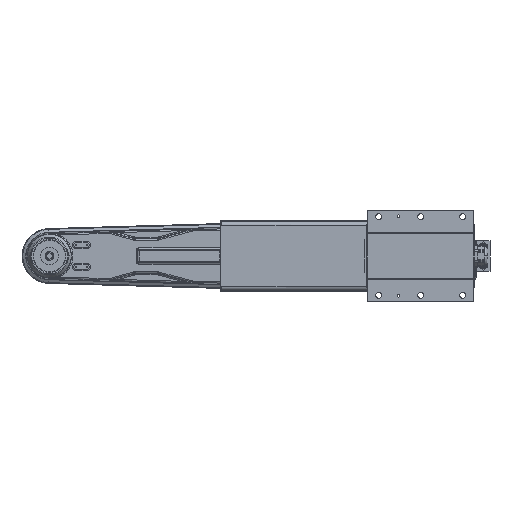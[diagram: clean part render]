
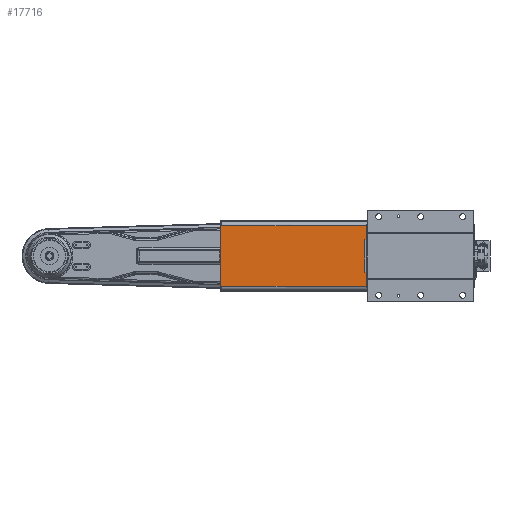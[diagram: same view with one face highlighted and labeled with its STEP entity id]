
A CAD part, front view. The second image highlights one B-rep face of the part: STEP entity #17716.
In plain terms, the highlighted planar face has unit normal (0, -1, 0).
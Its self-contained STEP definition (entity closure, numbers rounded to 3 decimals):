
#16680=CARTESIAN_POINT('',(-410.,194.,-68.213));
#16681=CARTESIAN_POINT('',(-410.,194.,-68.235));
#16682=CARTESIAN_POINT('',(-410.,194.,-68.279));
#16683=CARTESIAN_POINT('',(-410.,194.,-68.323));
#16684=CARTESIAN_POINT('',(-410.,194.,-68.345));
#16686=DIRECTION('',(-1.,0.,0.));
#16687=VECTOR('',#16686,2.);
#16688=CARTESIAN_POINT('',(-410.,194.,-68.213));
#16689=LINE('',#16688,#16687);
#16690=DIRECTION('',(0.,0.,1.));
#16691=VECTOR('',#16690,136.425);
#16692=CARTESIAN_POINT('',(-412.,194.,-68.213));
#16693=LINE('',#16692,#16691);
#16694=CARTESIAN_POINT('',(-410.,194.,68.357));
#16695=CARTESIAN_POINT('',(-410.,194.,68.333));
#16696=CARTESIAN_POINT('',(-410.,194.,68.285));
#16697=CARTESIAN_POINT('',(-410.,194.,68.237));
#16698=CARTESIAN_POINT('',(-410.,194.,68.213));
#16771=CARTESIAN_POINT('',(0.,194.,0.));
#16772=DIRECTION('',(0.,-1.,0.));
#16773=DIRECTION('',(-0.27,0.,0.963));
#16774=AXIS2_PLACEMENT_3D('',#16771,#16772,#16773);
#16790=CARTESIAN_POINT('',(0.,194.,0.));
#16791=DIRECTION('',(0.,-1.,0.));
#16792=DIRECTION('',(-0.5,0.,0.866));
#16793=AXIS2_PLACEMENT_3D('',#16790,#16791,#16792);
#16823=DIRECTION('',(1.,0.,0.));
#16824=VECTOR('',#16823,390.767);
#16825=CARTESIAN_POINT('',(-410.,194.,-68.345));
#16826=LINE('',#16825,#16824);
#16839=DIRECTION('',(-1.,0.,0.));
#16840=VECTOR('',#16839,390.809);
#16841=CARTESIAN_POINT('',(-19.191,194.,68.357));
#16842=LINE('',#16841,#16840);
#17210=DIRECTION('',(-1.,0.,0.));
#17211=VECTOR('',#17210,2.);
#17212=CARTESIAN_POINT('',(-410.,194.,68.213));
#17213=LINE('',#17212,#17211);
#17345=CARTESIAN_POINT('',(-412.,194.,68.213));
#17346=VERTEX_POINT('',#17345);
#17347=CARTESIAN_POINT('',(-412.,194.,-68.213));
#17348=VERTEX_POINT('',#17347);
#17363=CARTESIAN_POINT('',(-19.191,194.,68.357));
#17364=CARTESIAN_POINT('',(-35.5,194.,61.488));
#17365=VERTEX_POINT('',#17363);
#17366=VERTEX_POINT('',#17364);
#17371=CARTESIAN_POINT('',(-19.233,194.,-68.345));
#17372=VERTEX_POINT('',#17371);
#17414=VERTEX_POINT('',#16680);
#17415=VERTEX_POINT('',#16684);
#17419=CARTESIAN_POINT('',(-410.,194.001,68.357));
#17421=VERTEX_POINT('',#17419);
#17422=VERTEX_POINT('',#16698);
#17693=CARTESIAN_POINT('',(-167.5,194.,0.006));
#17694=DIRECTION('',(0.,1.,0.));
#17695=DIRECTION('',(1.,0.,0.));
#17696=AXIS2_PLACEMENT_3D('',#17693,#17694,#17695);
#17697=PLANE('',#17696);
#17698=ORIENTED_EDGE('',*,*,#17625,.F.);
#17699=ORIENTED_EDGE('',*,*,#17631,.T.);
#17701=ORIENTED_EDGE('',*,*,#17700,.T.);
#17703=ORIENTED_EDGE('',*,*,#17702,.F.);
#17705=ORIENTED_EDGE('',*,*,#17704,.F.);
#17707=ORIENTED_EDGE('',*,*,#17706,.F.);
#17709=ORIENTED_EDGE('',*,*,#17708,.T.);
#17711=ORIENTED_EDGE('',*,*,#17710,.T.);
#17713=ORIENTED_EDGE('',*,*,#17712,.F.);
#17714=EDGE_LOOP('',(#17698,#17699,#17701,#17703,#17705,#17707,#17709,#17711,
#17713));
#17715=FACE_OUTER_BOUND('',#17714,.F.);
#16685=B_SPLINE_CURVE_WITH_KNOTS('',3,(#16680,#16681,#16682,#16683,#16684),
.UNSPECIFIED.,.F.,.F.,(4,1,4),(0.,0.5,1.),.UNSPECIFIED.);
#16699=B_SPLINE_CURVE_WITH_KNOTS('',3,(#16694,#16695,#16696,#16697,#16698),
.UNSPECIFIED.,.F.,.F.,(4,1,4),(0.,0.5,1.),.UNSPECIFIED.);
#16775=CIRCLE('',#16774,71.);
#16794=CIRCLE('',#16793,71.);
#17625=EDGE_CURVE('',#17414,#17415,#16685,.T.);
#17631=EDGE_CURVE('',#17414,#17348,#16689,.T.);
#17700=EDGE_CURVE('',#17348,#17346,#16693,.T.);
#17702=EDGE_CURVE('',#17422,#17346,#17213,.T.);
#17704=EDGE_CURVE('',#17421,#17422,#16699,.T.);
#17706=EDGE_CURVE('',#17365,#17421,#16842,.T.);
#17708=EDGE_CURVE('',#17365,#17366,#16775,.T.);
#17710=EDGE_CURVE('',#17366,#17372,#16794,.T.);
#17712=EDGE_CURVE('',#17415,#17372,#16826,.T.);
#17716=ADVANCED_FACE('',(#17715),#17697,.F.);
